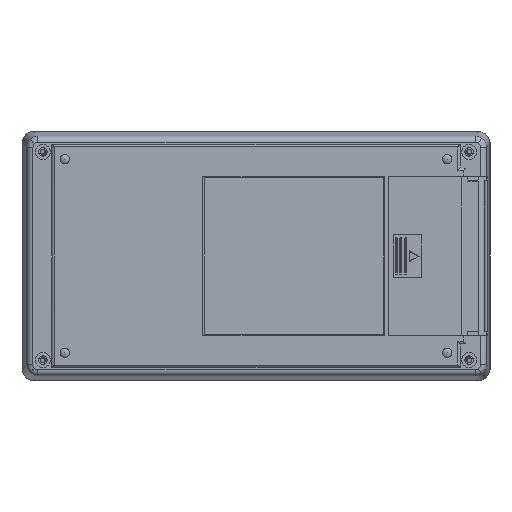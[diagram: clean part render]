
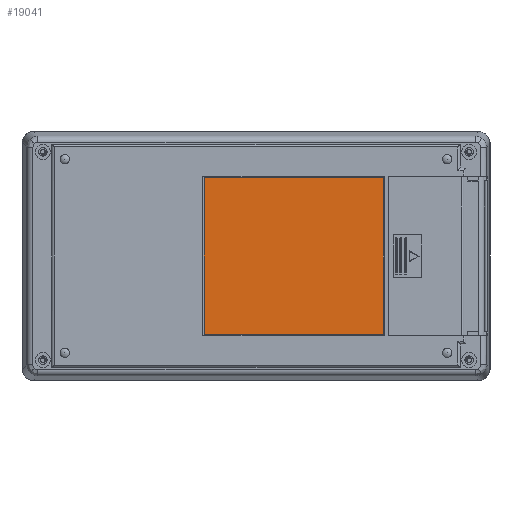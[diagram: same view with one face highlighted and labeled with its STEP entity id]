
A CAD part, front view. The second image highlights one B-rep face of the part: STEP entity #19041.
In plain terms, the highlighted planar face has unit normal (0, -1, 0).
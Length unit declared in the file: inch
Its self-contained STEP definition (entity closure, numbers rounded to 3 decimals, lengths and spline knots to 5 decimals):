
#227 = DIRECTION ( 'NONE',  ( 0., -1., 0. ) ) ;
#688 = CARTESIAN_POINT ( 'NONE',  ( -0.83465, -0.56299, -1.25984 ) ) ;
#1063 = VERTEX_POINT ( 'NONE', #13920 ) ;
#2423 = DIRECTION ( 'NONE',  ( 1., 0., 0. ) ) ;
#3516 = LINE ( 'NONE', #14249, #18650 ) ;
#3811 = DIRECTION ( 'NONE',  ( 0., 0., 1. ) ) ;
#3942 = VECTOR ( 'NONE', #10491, 39.37008 ) ;
#4023 = VECTOR ( 'NONE', #4936, 39.37008 ) ;
#4936 = DIRECTION ( 'NONE',  ( 0., 0., -1. ) ) ;
#5464 = ORIENTED_EDGE ( 'NONE', *, *, #13692, .T. ) ;
#7671 = VERTEX_POINT ( 'NONE', #20546 ) ;
#9138 = CARTESIAN_POINT ( 'NONE',  ( 2.04724, -0.56299, 1.25984 ) ) ;
#9188 = LINE ( 'NONE', #22205, #3942 ) ;
#9225 = ORIENTED_EDGE ( 'NONE', *, *, #20170, .T. ) ;
#10491 = DIRECTION ( 'NONE',  ( -1., 0., 0. ) ) ;
#11152 = ORIENTED_EDGE ( 'NONE', *, *, #11615, .T. ) ;
#11615 = EDGE_CURVE ( 'NONE', #25472, #7671, #9188, .T. ) ;
#13692 = EDGE_CURVE ( 'NONE', #17170, #1063, #3516, .T. ) ;
#13920 = CARTESIAN_POINT ( 'NONE',  ( 2.04724, -0.56299, -1.25984 ) ) ;
#14053 = DIRECTION ( 'NONE',  ( 0., 0., -1. ) ) ;
#14249 = CARTESIAN_POINT ( 'NONE',  ( 2.04724, -0.56299, -1.25984 ) ) ;
#15674 = VECTOR ( 'NONE', #3811, 39.37008 ) ;
#16074 = EDGE_CURVE ( 'NONE', #1063, #25472, #16298, .T. ) ;
#16298 = LINE ( 'NONE', #19602, #15674 ) ;
#17170 = VERTEX_POINT ( 'NONE', #688 ) ;
#17758 = ORIENTED_EDGE ( 'NONE', *, *, #16074, .T. ) ;
#18247 = AXIS2_PLACEMENT_3D ( 'NONE', #21891, #227, #14053 ) ;
#18650 = VECTOR ( 'NONE', #2423, 39.37008 ) ;
#19041 = ADVANCED_FACE ( 'NONE', ( #22913 ), #19923, .T. ) ;
#19602 = CARTESIAN_POINT ( 'NONE',  ( 2.04724, -0.56299, 1.25984 ) ) ;
#19923 = PLANE ( 'NONE',  #18247 ) ;
#20170 = EDGE_CURVE ( 'NONE', #7671, #17170, #25026, .T. ) ;
#20546 = CARTESIAN_POINT ( 'NONE',  ( -0.83465, -0.56299, 1.25984 ) ) ;
#21891 = CARTESIAN_POINT ( 'NONE',  ( -3.75197, -0.56299, -1.99606 ) ) ;
#22205 = CARTESIAN_POINT ( 'NONE',  ( 2.04724, -0.56299, 1.25984 ) ) ;
#22687 = CARTESIAN_POINT ( 'NONE',  ( -0.83465, -0.56299, 1.25984 ) ) ;
#22913 = FACE_OUTER_BOUND ( 'NONE', #24802, .T. ) ;
#24802 = EDGE_LOOP ( 'NONE', ( #5464, #17758, #11152, #9225 ) ) ;
#25026 = LINE ( 'NONE', #22687, #4023 ) ;
#25472 = VERTEX_POINT ( 'NONE', #9138 ) ;
